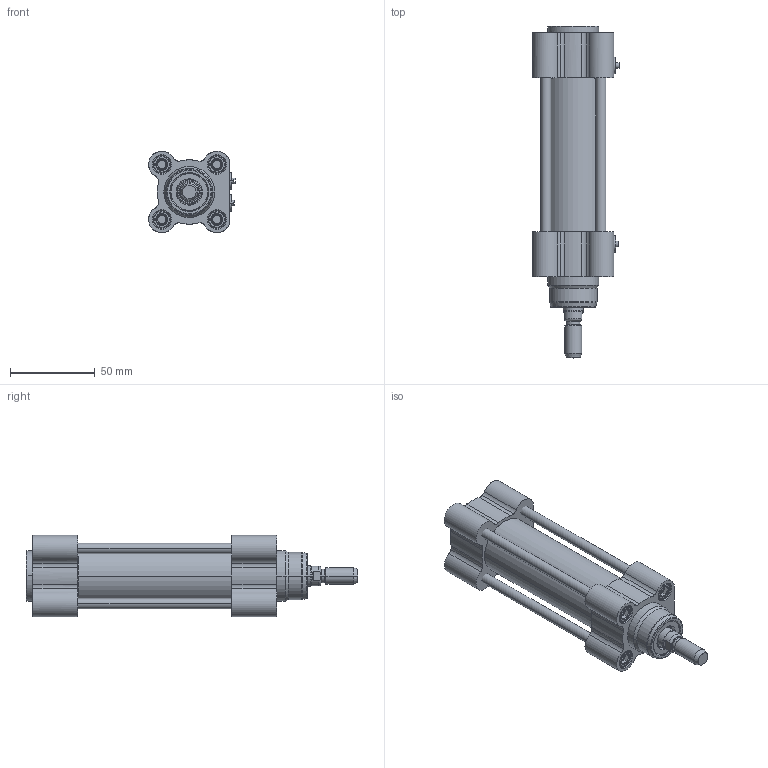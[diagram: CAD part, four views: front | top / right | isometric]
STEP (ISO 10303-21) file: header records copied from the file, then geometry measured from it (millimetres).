
FILE_DESCRIPTION (( 'STEP AP203' ), '1' );
FILE_NAME ('CTMI32-50.STEP', '2020-03-26T18:59:25', ( '' ), ( '' ), 'SwSTEP 2.0', 'SolidWorks 2019', '' );
FILE_SCHEMA (( 'CONFIG_CONTROL_DESIGN' ));
Length unit declared in the file: millimetre
Products named in the file (1): CTMI32-50
Bounding box: 51.2 x 196 x 48 mm (x, y, z)
Surface area: 72823.1 mm2 (no closed solid volume)
Topology: 0 solids, 27 shells, 706 faces, 1614 edges, 990 vertices
Faces by surface type: cylinder 207, cone 203, plane 192, torus 88, bspline 16
Entity records: 25729 total; most frequent: CARTESIAN_POINT 10948, ORIENTED_EDGE 3172, DIRECTION 2802, EDGE_CURVE 1614, AXIS2_PLACEMENT_3D 1166, VERTEX_POINT 990, EDGE_LOOP 776, ADVANCED_FACE 706
